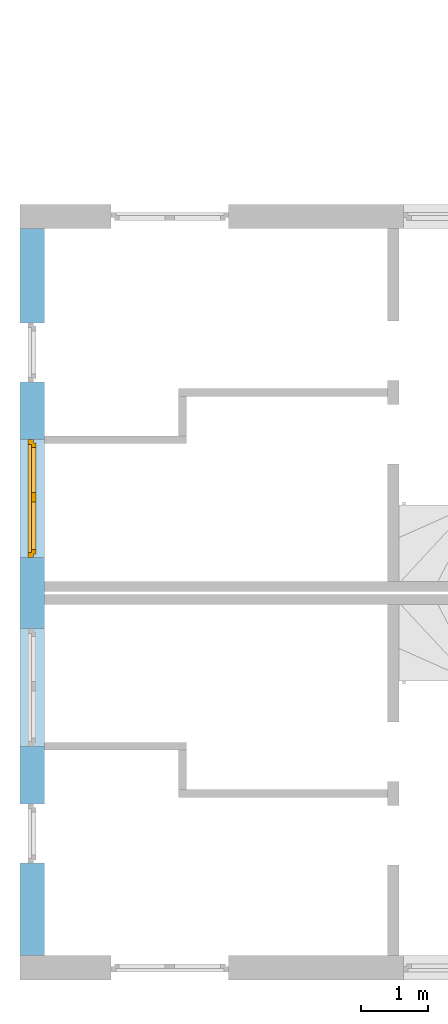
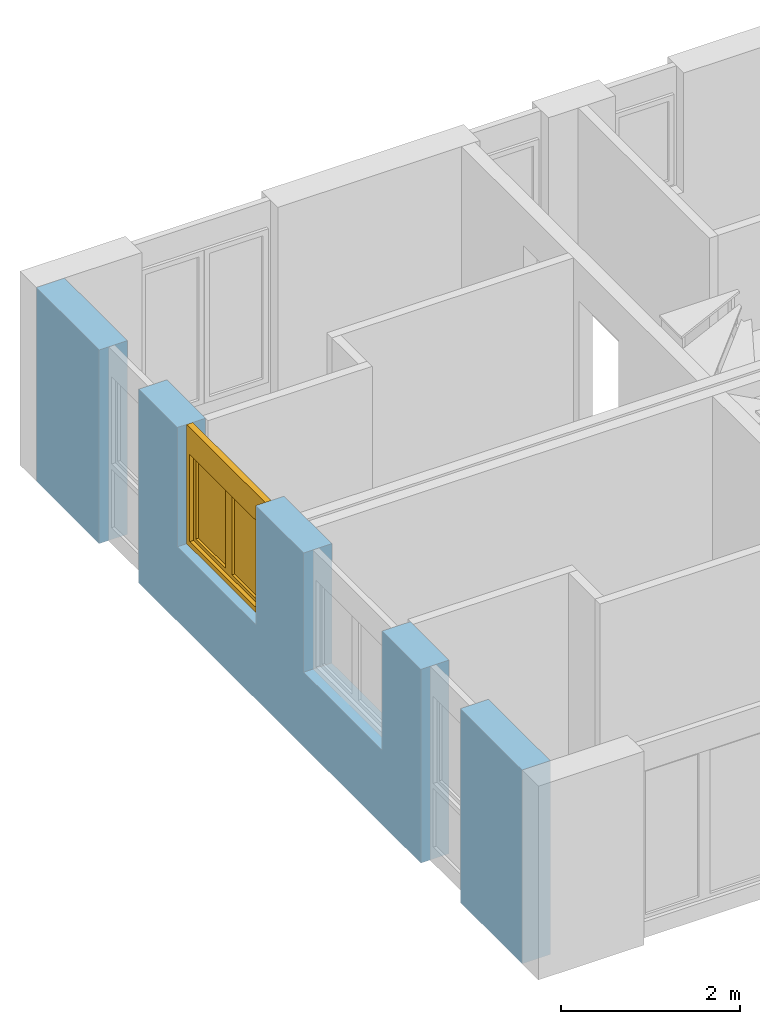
# One storey, part 8 of 42: 1 window, 4 openings, plus 1 element that does not belong to this part.
"""IFC2X3 building model written with IfcOpenShell, lengths in millimetres."""

from ifc_helpers import new_model, entity, si_unit, converted_unit, frame, frame_2d, origin, origin_with_axes, place, context, subcontext, project, spatial, rectangle, extrude, faceted_brep, material, layer, layer_set, layer_usage, type_object, element, fill, save


model = new_model("IFC2X3")

# Units and contexts
model_context = context("Model", 3, precision=1e-05, world=origin())
body_context = subcontext(model_context, "Body", "Model", "MODEL_VIEW")
ifc_project = project(units=[si_unit("LENGTHUNIT", "METRE", prefix="MILLI"), converted_unit("PLANEANGLEUNIT", "DEGREE", entity("IfcPlaneAngleMeasure", 0.0174532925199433), si_unit("PLANEANGLEUNIT", "RADIAN"), dimensions=[0, 0, 0, 0, 0, 0, 0]), si_unit("AREAUNIT", "SQUARE_METRE"), si_unit("VOLUMEUNIT", "CUBIC_METRE")], contexts=[model_context])

# Building, storey
building_placement = place(None, origin())
building = spatial("IfcBuilding", under=ifc_project, at=building_placement, Name="Gebäude", CompositionType="ELEMENT")
storey_placement = place(building_placement, frame((0.0, 0.0, 2730.0), z_axis=(0.0, 0.0, 1.0), x_axis=(1.0, 0.0, 0.0)))
storey = spatial("IfcBuildingStorey", under=building, at=storey_placement, Name="OG.- Grundriss", CompositionType="ELEMENT", Elevation=2730.0)

# Wall, openings, window
ifc_material_1 = material(Name="Poroton")
ifc_layer = layer(ifc_material_1, 365.0)
ifc_layer_set = layer_set([ifc_layer])
ifc_layer_usage = layer_usage(ifc_layer_set, "AXIS2", "POSITIVE", 0.0)
wall_placement = place(storey_placement, frame((130992.7928067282, 136524.8877324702, 0.0), z_axis=(0.0, 0.0, 1.0), x_axis=(1.336877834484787e-14, -1.0, 0.0)))
wall = element("IfcWallStandardCase", 1, at=wall_placement, inside=storey, material=ifc_layer_usage, Name="<Unnamed Element>", context=body_context, shape_type="SweptSolid", body=[
    extrude(rectangle(XDim=10884.99999999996, YDim=365.0, at=frame_2d((5442.499999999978, 182.5), x_axis=(1.0, 0.0))), origin_with_axes(), (0.0, 0.0, 1.0), 2650.0),
])
opening_1_placement = place(wall_placement, frame((5989.999999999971, 1.455191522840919e-13, 1020.0), z_axis=(0.0, 1.0, 0.0), x_axis=(0.0, 0.0, 1.0)))
element("IfcOpeningElement", 2, at=opening_1_placement, cuts=wall, Name="Fensteröffnung", ObjectType="Opening", context=body_context, shape_type="SweptSolid", body=[
    extrude(rectangle(XDim=1630.0, YDim=1760.0, at=frame_2d((815.0, 880.0), x_axis=(1.0, 0.0))), origin_with_axes(), (0.0, 0.0, 1.0), 365.0000000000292),
])
opening_2_placement = place(wall_placement, frame((8614.99999999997, -8.949427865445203e-12, 0.0), z_axis=(0.0, 1.0, 0.0), x_axis=(0.0, 0.0, 1.0)))
element("IfcOpeningElement", 3, at=opening_2_placement, cuts=wall, Name="Fensteröffnung", ObjectType="Opening", context=body_context, shape_type="SweptSolid", body=[
    extrude(rectangle(XDim=2650.0, YDim=885.0, at=frame_2d((1325.0, 442.5), x_axis=(1.0, 0.0))), origin_with_axes(), (0.0, 0.0, 1.0), 364.9999999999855),
])
opening_3_placement = place(wall_placement, frame((3159.987487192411, -1.688003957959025e-11, 1020.0), z_axis=(0.0, 1.0, 0.0), x_axis=(0.0, 0.0, 1.0)))
opening_3 = element("IfcOpeningElement", 4, at=opening_3_placement, cuts=wall, Name="Fensteröffnung", ObjectType="Opening", context=body_context, shape_type="SweptSolid", body=[
    extrude(rectangle(XDim=1630.0, YDim=1760.0, at=frame_2d((815.0, 880.0), x_axis=(1.0, 0.0))), origin_with_axes(), (0.0, 0.0, 1.0), 365.0),
])
opening_4_placement = place(wall_placement, frame((1409.987487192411, -5.966103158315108e-12, 0.0), z_axis=(0.0, 1.0, 0.0), x_axis=(0.0, 0.0, 1.0)))
element("IfcOpeningElement", 5, at=opening_4_placement, cuts=wall, Name="Fensteröffnung", ObjectType="Opening", context=body_context, shape_type="SweptSolid", body=[
    extrude(rectangle(XDim=2650.0, YDim=885.0, at=frame_2d((1325.0, 442.5), x_axis=(1.0, 0.0))), origin_with_axes(), (0.0, 0.0, 1.0), 365.0),
])
ifc_material_2 = material()
window_style = type_object("IfcWindowStyle", Name="Fenster", ConstructionType="NOTDEFINED", OperationType="USERDEFINED", ParameterTakesPrecedence=False, Sizeable=False)
window_placement = place(opening_3_placement, frame((0.0, 0.0, 0.0), z_axis=(1.0, 0.0, 0.0), x_axis=(0.0, 1.0, 0.0)))
window = element("IfcWindow", 6, at=window_placement, inside=storey, type_object=window_style, material=ifc_material_2, Name="Fenster", OverallHeight=1630.0, OverallWidth=1760.0, context=body_context, shape_type="Brep", body=[
    faceted_brep([(1.064603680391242e-12, 200.0000000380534, 1630.0), (1.064603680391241e-12, 200.0000000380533, -2.449293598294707e-15), (69.9999999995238, 200.0000000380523, -2.449293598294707e-15), (69.9999999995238, 200.0000000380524, 1630.0), (0.0, 120.0000000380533, 2.449293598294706e-15), (1.323781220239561e-27, 120.0000000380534, 1630.0), (69.99999999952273, 120.0000000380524, 1630.0), (69.99999999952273, 120.0000000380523, 2.449293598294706e-15), (1.064603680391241e-12, 200.0000000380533, -2.449293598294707e-15), (1.064603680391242e-12, 200.0000000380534, 1630.0), (1.323781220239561e-27, 120.0000000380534, 1630.0), (0.0, 120.0000000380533, 2.449293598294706e-15), (69.9999999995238, 200.0000000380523, -2.449293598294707e-15), (1.064603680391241e-12, 200.0000000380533, -2.449293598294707e-15), (0.0, 120.0000000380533, 2.449293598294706e-15), (69.99999999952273, 120.0000000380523, 2.449293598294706e-15), (69.9999999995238, 200.0000000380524, 1630.0), (69.9999999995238, 200.0000000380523, -2.449293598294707e-15), (69.99999999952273, 120.0000000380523, 2.449293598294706e-15), (69.99999999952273, 120.0000000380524, 1630.0), (1.064603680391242e-12, 200.0000000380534, 1630.0), (69.9999999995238, 200.0000000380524, 1630.0), (69.99999999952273, 120.0000000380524, 1630.0), (1.323781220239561e-27, 120.0000000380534, 1630.0)], [[[0, 1, 2, 3]], [[4, 5, 6, 7]], [[8, 9, 10, 11]], [[12, 13, 14, 15]], [[16, 17, 18, 19]], [[20, 21, 22, 23]]], orient=[[False], [False], [False], [False], [False], [False]]),
    faceted_brep([(1690.000000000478, 200.0000000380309, 1630.0), (1690.000000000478, 200.0000000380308, -2.449293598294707e-15), (1760.000000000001, 200.0000000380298, -2.449293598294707e-15), (1760.000000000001, 200.00000003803, 1630.0), (1690.000000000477, 120.0000000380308, 2.449293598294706e-15), (1690.000000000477, 120.0000000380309, 1630.0), (1760.0, 120.0000000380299, 1630.0), (1760.0, 120.0000000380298, 2.449293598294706e-15), (1690.000000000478, 200.0000000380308, -2.449293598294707e-15), (1690.000000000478, 200.0000000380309, 1630.0), (1690.000000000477, 120.0000000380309, 1630.0), (1690.000000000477, 120.0000000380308, 2.449293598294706e-15), (1760.000000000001, 200.0000000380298, -2.449293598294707e-15), (1690.000000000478, 200.0000000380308, -2.449293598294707e-15), (1690.000000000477, 120.0000000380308, 2.449293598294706e-15), (1760.0, 120.0000000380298, 2.449293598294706e-15), (1760.000000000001, 200.00000003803, 1630.0), (1760.000000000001, 200.0000000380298, -2.449293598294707e-15), (1760.0, 120.0000000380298, 2.449293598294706e-15), (1760.0, 120.0000000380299, 1630.0), (1690.000000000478, 200.0000000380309, 1630.0), (1760.000000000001, 200.00000003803, 1630.0), (1760.0, 120.0000000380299, 1630.0), (1690.000000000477, 120.0000000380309, 1630.0)], [[[0, 1, 2, 3]], [[4, 5, 6, 7]], [[8, 9, 10, 11]], [[12, 13, 14, 15]], [[16, 17, 18, 19]], [[20, 21, 22, 23]]], orient=[[False], [False], [False], [False], [False], [False]]),
    faceted_brep([(69.9999999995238, 200.0000000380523, 69.99999999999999), (69.9999999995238, 200.0000000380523, -2.449293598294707e-15), (1690.000000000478, 200.0000000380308, -2.449293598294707e-15), (1690.000000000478, 200.0000000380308, 69.99999999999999), (69.99999999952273, 120.0000000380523, 2.449293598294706e-15), (69.99999999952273, 120.0000000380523, 69.99999999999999), (1690.000000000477, 120.0000000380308, 69.99999999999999), (1690.000000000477, 120.0000000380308, 2.449293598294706e-15), (69.9999999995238, 200.0000000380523, -2.449293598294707e-15), (69.9999999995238, 200.0000000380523, 69.99999999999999), (69.99999999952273, 120.0000000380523, 69.99999999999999), (69.99999999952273, 120.0000000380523, 2.449293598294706e-15), (1690.000000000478, 200.0000000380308, -2.449293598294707e-15), (69.9999999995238, 200.0000000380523, -2.449293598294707e-15), (69.99999999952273, 120.0000000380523, 2.449293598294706e-15), (1690.000000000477, 120.0000000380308, 2.449293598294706e-15), (1690.000000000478, 200.0000000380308, 69.99999999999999), (1690.000000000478, 200.0000000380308, -2.449293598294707e-15), (1690.000000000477, 120.0000000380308, 2.449293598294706e-15), (1690.000000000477, 120.0000000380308, 69.99999999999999), (69.9999999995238, 200.0000000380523, 69.99999999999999), (1690.000000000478, 200.0000000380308, 69.99999999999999), (1690.000000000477, 120.0000000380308, 69.99999999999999), (69.99999999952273, 120.0000000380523, 69.99999999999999)], [[[0, 1, 2, 3]], [[4, 5, 6, 7]], [[8, 9, 10, 11]], [[12, 13, 14, 15]], [[16, 17, 18, 19]], [[20, 21, 22, 23]]], orient=[[False], [False], [False], [False], [False], [False]]),
    faceted_brep([(69.9999999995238, 200.0000000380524, 1630.0), (69.9999999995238, 200.0000000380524, 1260.0), (1690.000000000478, 200.0000000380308, 1260.0), (1690.000000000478, 200.0000000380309, 1630.0), (69.99999999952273, 120.0000000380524, 1260.0), (69.99999999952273, 120.0000000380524, 1630.0), (1690.000000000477, 120.0000000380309, 1630.0), (1690.000000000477, 120.0000000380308, 1260.0), (69.9999999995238, 200.0000000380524, 1260.0), (69.9999999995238, 200.0000000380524, 1630.0), (69.99999999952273, 120.0000000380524, 1630.0), (69.99999999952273, 120.0000000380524, 1260.0), (1690.000000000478, 200.0000000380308, 1260.0), (69.9999999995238, 200.0000000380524, 1260.0), (69.99999999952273, 120.0000000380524, 1260.0), (1690.000000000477, 120.0000000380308, 1260.0), (1690.000000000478, 200.0000000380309, 1630.0), (1690.000000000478, 200.0000000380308, 1260.0), (1690.000000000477, 120.0000000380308, 1260.0), (1690.000000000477, 120.0000000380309, 1630.0), (69.9999999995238, 200.0000000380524, 1630.0), (1690.000000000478, 200.0000000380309, 1630.0), (1690.000000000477, 120.0000000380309, 1630.0), (69.99999999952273, 120.0000000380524, 1630.0)], [[[0, 1, 2, 3]], [[4, 5, 6, 7]], [[8, 9, 10, 11]], [[12, 13, 14, 15]], [[16, 17, 18, 19]], [[20, 21, 22, 23]]], orient=[[False], [False], [False], [False], [False], [False]]),
    faceted_brep([(49.9999999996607, 240.0000000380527, 1280.0), (49.9999999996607, 240.0000000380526, 49.99999999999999), (119.9999999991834, 240.0000000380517, 49.99999999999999), (119.9999999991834, 240.0000000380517, 1280.0), (49.99999999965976, 170.0000000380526, 50.0), (49.99999999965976, 170.0000000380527, 1280.0), (119.9999999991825, 170.0000000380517, 1280.0), (119.9999999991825, 170.0000000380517, 50.0), (49.9999999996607, 240.0000000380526, 49.99999999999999), (49.9999999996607, 240.0000000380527, 1280.0), (49.99999999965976, 170.0000000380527, 1280.0), (49.99999999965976, 170.0000000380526, 50.0), (119.9999999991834, 240.0000000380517, 49.99999999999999), (49.9999999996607, 240.0000000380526, 49.99999999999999), (49.99999999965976, 170.0000000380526, 50.0), (119.9999999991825, 170.0000000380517, 50.0), (119.9999999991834, 240.0000000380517, 1280.0), (119.9999999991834, 240.0000000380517, 49.99999999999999), (119.9999999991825, 170.0000000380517, 50.0), (119.9999999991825, 170.0000000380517, 1280.0), (49.9999999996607, 240.0000000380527, 1280.0), (119.9999999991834, 240.0000000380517, 1280.0), (119.9999999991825, 170.0000000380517, 1280.0), (49.99999999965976, 170.0000000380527, 1280.0)], [[[0, 1, 2, 3]], [[4, 5, 6, 7]], [[8, 9, 10, 11]], [[12, 13, 14, 15]], [[16, 17, 18, 19]], [[20, 21, 22, 23]]], orient=[[False], [False], [False], [False], [False], [False]]),
    faceted_brep([(789.5000000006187, 240.0000000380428, 1280.0), (789.5000000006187, 240.0000000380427, 49.99999999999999), (859.5000000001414, 240.0000000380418, 49.99999999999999), (859.5000000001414, 240.0000000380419, 1280.0), (789.5000000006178, 170.0000000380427, 50.0), (789.5000000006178, 170.0000000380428, 1280.0), (859.5000000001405, 170.0000000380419, 1280.0), (859.5000000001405, 170.0000000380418, 50.0), (789.5000000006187, 240.0000000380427, 49.99999999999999), (789.5000000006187, 240.0000000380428, 1280.0), (789.5000000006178, 170.0000000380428, 1280.0), (789.5000000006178, 170.0000000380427, 50.0), (859.5000000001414, 240.0000000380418, 49.99999999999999), (789.5000000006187, 240.0000000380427, 49.99999999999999), (789.5000000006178, 170.0000000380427, 50.0), (859.5000000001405, 170.0000000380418, 50.0), (859.5000000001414, 240.0000000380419, 1280.0), (859.5000000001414, 240.0000000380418, 49.99999999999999), (859.5000000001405, 170.0000000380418, 50.0), (859.5000000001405, 170.0000000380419, 1280.0), (789.5000000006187, 240.0000000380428, 1280.0), (859.5000000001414, 240.0000000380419, 1280.0), (859.5000000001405, 170.0000000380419, 1280.0), (789.5000000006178, 170.0000000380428, 1280.0)], [[[0, 1, 2, 3]], [[4, 5, 6, 7]], [[8, 9, 10, 11]], [[12, 13, 14, 15]], [[16, 17, 18, 19]], [[20, 21, 22, 23]]], orient=[[False], [False], [False], [False], [False], [False]]),
    faceted_brep([(119.9999999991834, 240.0000000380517, 120.0), (119.9999999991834, 240.0000000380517, 49.99999999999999), (789.5000000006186, 240.0000000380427, 49.99999999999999), (789.5000000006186, 240.0000000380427, 120.0), (119.9999999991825, 170.0000000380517, 50.0), (119.9999999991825, 170.0000000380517, 120.0), (789.5000000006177, 170.0000000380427, 120.0), (789.5000000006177, 170.0000000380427, 50.0), (119.9999999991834, 240.0000000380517, 49.99999999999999), (119.9999999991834, 240.0000000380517, 120.0), (119.9999999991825, 170.0000000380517, 120.0), (119.9999999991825, 170.0000000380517, 50.0), (789.5000000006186, 240.0000000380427, 49.99999999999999), (119.9999999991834, 240.0000000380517, 49.99999999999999), (119.9999999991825, 170.0000000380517, 50.0), (789.5000000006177, 170.0000000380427, 50.0), (789.5000000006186, 240.0000000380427, 120.0), (789.5000000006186, 240.0000000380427, 49.99999999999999), (789.5000000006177, 170.0000000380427, 50.0), (789.5000000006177, 170.0000000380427, 120.0), (119.9999999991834, 240.0000000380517, 120.0), (789.5000000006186, 240.0000000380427, 120.0), (789.5000000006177, 170.0000000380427, 120.0), (119.9999999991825, 170.0000000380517, 120.0)], [[[0, 1, 2, 3]], [[4, 5, 6, 7]], [[8, 9, 10, 11]], [[12, 13, 14, 15]], [[16, 17, 18, 19]], [[20, 21, 22, 23]]], orient=[[False], [False], [False], [False], [False], [False]]),
    faceted_brep([(119.9999999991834, 240.0000000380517, 1280.0), (119.9999999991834, 240.0000000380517, 1210.0), (789.5000000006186, 240.0000000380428, 1210.0), (789.5000000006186, 240.0000000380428, 1280.0), (119.9999999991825, 170.0000000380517, 1210.0), (119.9999999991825, 170.0000000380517, 1280.0), (789.5000000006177, 170.0000000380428, 1280.0), (789.5000000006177, 170.0000000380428, 1210.0), (119.9999999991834, 240.0000000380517, 1210.0), (119.9999999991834, 240.0000000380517, 1280.0), (119.9999999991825, 170.0000000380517, 1280.0), (119.9999999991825, 170.0000000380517, 1210.0), (789.5000000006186, 240.0000000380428, 1210.0), (119.9999999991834, 240.0000000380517, 1210.0), (119.9999999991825, 170.0000000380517, 1210.0), (789.5000000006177, 170.0000000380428, 1210.0), (789.5000000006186, 240.0000000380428, 1280.0), (789.5000000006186, 240.0000000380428, 1210.0), (789.5000000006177, 170.0000000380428, 1210.0), (789.5000000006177, 170.0000000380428, 1280.0), (119.9999999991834, 240.0000000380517, 1280.0), (789.5000000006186, 240.0000000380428, 1280.0), (789.5000000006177, 170.0000000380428, 1280.0), (119.9999999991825, 170.0000000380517, 1280.0)], [[[0, 1, 2, 3]], [[4, 5, 6, 7]], [[8, 9, 10, 11]], [[12, 13, 14, 15]], [[16, 17, 18, 19]], [[20, 21, 22, 23]]], orient=[[False], [False], [False], [False], [False], [False]]),
    faceted_brep([(860.5000000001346, 240.0000000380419, 1280.0), (860.5000000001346, 240.0000000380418, 49.99999999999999), (930.4999999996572, 240.0000000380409, 49.99999999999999), (930.4999999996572, 240.000000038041, 1280.0), (860.5000000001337, 170.0000000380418, 50.0), (860.5000000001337, 170.0000000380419, 1280.0), (930.4999999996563, 170.000000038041, 1280.0), (930.4999999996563, 170.0000000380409, 50.0), (860.5000000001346, 240.0000000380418, 49.99999999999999), (860.5000000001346, 240.0000000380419, 1280.0), (860.5000000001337, 170.0000000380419, 1280.0), (860.5000000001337, 170.0000000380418, 50.0), (930.4999999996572, 240.0000000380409, 49.99999999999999), (860.5000000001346, 240.0000000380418, 49.99999999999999), (860.5000000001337, 170.0000000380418, 50.0), (930.4999999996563, 170.0000000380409, 50.0), (930.4999999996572, 240.000000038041, 1280.0), (930.4999999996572, 240.0000000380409, 49.99999999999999), (930.4999999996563, 170.0000000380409, 50.0), (930.4999999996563, 170.000000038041, 1280.0), (860.5000000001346, 240.0000000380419, 1280.0), (930.4999999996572, 240.000000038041, 1280.0), (930.4999999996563, 170.000000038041, 1280.0), (860.5000000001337, 170.0000000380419, 1280.0)], [[[0, 1, 2, 3]], [[4, 5, 6, 7]], [[8, 9, 10, 11]], [[12, 13, 14, 15]], [[16, 17, 18, 19]], [[20, 21, 22, 23]]], orient=[[False], [False], [False], [False], [False], [False]]),
    faceted_brep([(1640.00000000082, 240.0000000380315, 1280.0), (1640.00000000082, 240.0000000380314, 49.99999999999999), (1710.000000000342, 240.0000000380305, 49.99999999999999), (1710.000000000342, 240.0000000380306, 1280.0), (1640.000000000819, 170.0000000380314, 50.0), (1640.000000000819, 170.0000000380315, 1280.0), (1710.000000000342, 170.0000000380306, 1280.0), (1710.000000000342, 170.0000000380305, 50.0), (1640.00000000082, 240.0000000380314, 49.99999999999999), (1640.00000000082, 240.0000000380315, 1280.0), (1640.000000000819, 170.0000000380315, 1280.0), (1640.000000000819, 170.0000000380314, 50.0), (1710.000000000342, 240.0000000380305, 49.99999999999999), (1640.00000000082, 240.0000000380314, 49.99999999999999), (1640.000000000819, 170.0000000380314, 50.0), (1710.000000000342, 170.0000000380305, 50.0), (1710.000000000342, 240.0000000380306, 1280.0), (1710.000000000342, 240.0000000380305, 49.99999999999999), (1710.000000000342, 170.0000000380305, 50.0), (1710.000000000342, 170.0000000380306, 1280.0), (1640.00000000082, 240.0000000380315, 1280.0), (1710.000000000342, 240.0000000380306, 1280.0), (1710.000000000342, 170.0000000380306, 1280.0), (1640.000000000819, 170.0000000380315, 1280.0)], [[[0, 1, 2, 3]], [[4, 5, 6, 7]], [[8, 9, 10, 11]], [[12, 13, 14, 15]], [[16, 17, 18, 19]], [[20, 21, 22, 23]]], orient=[[False], [False], [False], [False], [False], [False]]),
    faceted_brep([(930.4999999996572, 240.0000000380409, 120.0), (930.4999999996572, 240.0000000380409, 49.99999999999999), (1640.00000000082, 240.0000000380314, 49.99999999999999), (1640.00000000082, 240.0000000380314, 120.0), (930.4999999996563, 170.0000000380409, 50.0), (930.4999999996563, 170.0000000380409, 120.0), (1640.000000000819, 170.0000000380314, 120.0), (1640.000000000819, 170.0000000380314, 50.0), (930.4999999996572, 240.0000000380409, 49.99999999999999), (930.4999999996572, 240.0000000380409, 120.0), (930.4999999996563, 170.0000000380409, 120.0), (930.4999999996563, 170.0000000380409, 50.0), (1640.00000000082, 240.0000000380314, 49.99999999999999), (930.4999999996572, 240.0000000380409, 49.99999999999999), (930.4999999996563, 170.0000000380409, 50.0), (1640.000000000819, 170.0000000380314, 50.0), (1640.00000000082, 240.0000000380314, 120.0), (1640.00000000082, 240.0000000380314, 49.99999999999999), (1640.000000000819, 170.0000000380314, 50.0), (1640.000000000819, 170.0000000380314, 120.0), (930.4999999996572, 240.0000000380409, 120.0), (1640.00000000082, 240.0000000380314, 120.0), (1640.000000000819, 170.0000000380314, 120.0), (930.4999999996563, 170.0000000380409, 120.0)], [[[0, 1, 2, 3]], [[4, 5, 6, 7]], [[8, 9, 10, 11]], [[12, 13, 14, 15]], [[16, 17, 18, 19]], [[20, 21, 22, 23]]], orient=[[False], [False], [False], [False], [False], [False]]),
    faceted_brep([(930.4999999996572, 240.000000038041, 1280.0), (930.4999999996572, 240.000000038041, 1210.0), (1640.00000000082, 240.0000000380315, 1210.0), (1640.00000000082, 240.0000000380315, 1280.0), (930.4999999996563, 170.000000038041, 1210.0), (930.4999999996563, 170.000000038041, 1280.0), (1640.000000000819, 170.0000000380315, 1280.0), (1640.000000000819, 170.0000000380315, 1210.0), (930.4999999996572, 240.000000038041, 1210.0), (930.4999999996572, 240.000000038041, 1280.0), (930.4999999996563, 170.000000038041, 1280.0), (930.4999999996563, 170.000000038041, 1210.0), (1640.00000000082, 240.0000000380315, 1210.0), (930.4999999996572, 240.000000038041, 1210.0), (930.4999999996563, 170.000000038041, 1210.0), (1640.000000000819, 170.0000000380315, 1210.0), (1640.00000000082, 240.0000000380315, 1280.0), (1640.00000000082, 240.0000000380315, 1210.0), (1640.000000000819, 170.0000000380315, 1210.0), (1640.000000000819, 170.0000000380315, 1280.0), (930.4999999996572, 240.000000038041, 1280.0), (1640.00000000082, 240.0000000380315, 1280.0), (1640.000000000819, 170.0000000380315, 1280.0), (930.4999999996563, 170.000000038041, 1280.0)], [[[0, 1, 2, 3]], [[4, 5, 6, 7]], [[8, 9, 10, 11]], [[12, 13, 14, 15]], [[16, 17, 18, 19]], [[20, 21, 22, 23]]], orient=[[False], [False], [False], [False], [False], [False]]),
    faceted_brep([(119.999999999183, 205.0000000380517, 120.0), (789.5000000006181, 205.0000000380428, 120.0), (789.5000000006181, 205.0000000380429, 1210.0), (119.999999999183, 205.0000000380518, 1210.0), (119.999999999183, 204.0000000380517, 120.0), (119.999999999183, 204.0000000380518, 1210.0), (789.5000000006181, 204.0000000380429, 1210.0), (789.5000000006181, 204.0000000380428, 120.0), (119.999999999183, 205.0000000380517, 120.0), (119.999999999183, 204.0000000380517, 120.0), (789.5000000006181, 204.0000000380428, 120.0), (789.5000000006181, 205.0000000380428, 120.0), (789.5000000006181, 205.0000000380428, 120.0), (789.5000000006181, 204.0000000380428, 120.0), (789.5000000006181, 204.0000000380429, 1210.0), (789.5000000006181, 205.0000000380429, 1210.0), (789.5000000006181, 205.0000000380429, 1210.0), (789.5000000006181, 204.0000000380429, 1210.0), (119.999999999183, 204.0000000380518, 1210.0), (119.999999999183, 205.0000000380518, 1210.0), (119.999999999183, 205.0000000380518, 1210.0), (119.999999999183, 204.0000000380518, 1210.0), (119.999999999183, 204.0000000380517, 120.0), (119.999999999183, 205.0000000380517, 120.0)], [[[0, 1, 2, 3]], [[4, 5, 6, 7]], [[8, 9, 10, 11]], [[12, 13, 14, 15]], [[16, 17, 18, 19]], [[20, 21, 22, 23]]], orient=[[False], [False], [False], [False], [False], [False]]),
    faceted_brep([(930.4999999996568, 205.0000000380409, 120.0), (1640.000000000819, 205.0000000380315, 120.0), (1640.000000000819, 205.0000000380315, 1210.0), (930.4999999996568, 205.000000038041, 1210.0), (930.4999999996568, 204.0000000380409, 120.0), (930.4999999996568, 204.000000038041, 1210.0), (1640.000000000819, 204.0000000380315, 1210.0), (1640.000000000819, 204.0000000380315, 120.0), (930.4999999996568, 205.0000000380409, 120.0), (930.4999999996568, 204.0000000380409, 120.0), (1640.000000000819, 204.0000000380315, 120.0), (1640.000000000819, 205.0000000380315, 120.0), (1640.000000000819, 205.0000000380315, 120.0), (1640.000000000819, 204.0000000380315, 120.0), (1640.000000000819, 204.0000000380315, 1210.0), (1640.000000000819, 205.0000000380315, 1210.0), (1640.000000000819, 205.0000000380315, 1210.0), (1640.000000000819, 204.0000000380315, 1210.0), (930.4999999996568, 204.000000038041, 1210.0), (930.4999999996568, 205.000000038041, 1210.0), (930.4999999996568, 205.000000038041, 1210.0), (930.4999999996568, 204.000000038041, 1210.0), (930.4999999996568, 204.0000000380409, 120.0), (930.4999999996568, 205.0000000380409, 120.0)], [[[0, 1, 2, 3]], [[4, 5, 6, 7]], [[8, 9, 10, 11]], [[12, 13, 14, 15]], [[16, 17, 18, 19]], [[20, 21, 22, 23]]], orient=[[False], [False], [False], [False], [False], [False]]),
])
fill(opening_3, window)

save(model, "model.ifc")
